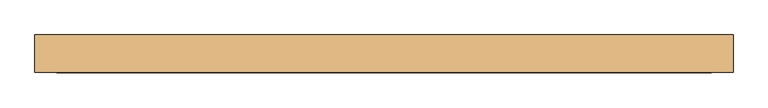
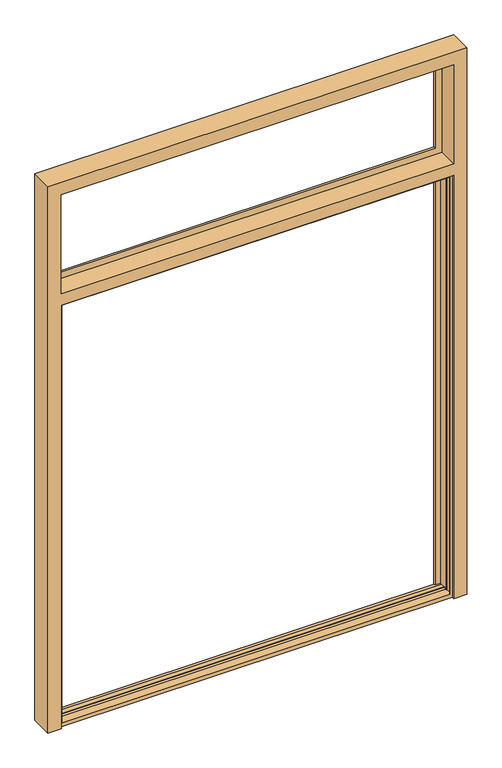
"""IFC4 building model written with IfcOpenShell, lengths in millimetres: door geometry, Dvokrilna vrata s ventusom__ : Dvokrilna vrata s ventusom__."""

from ifc_helpers import new_model, si_unit, frame, origin, place, context, project, spatial, circle_curve, source, transform, mapped, element, save
from ifc_brep_helpers import plane_surface, cylinder_surface, advanced_brep


def door_9ea68863(model_context):
    return source(origin(), model_context, "Body", "AdvancedBrep", [
        advanced_brep(
        [(-740.4975921, -16.6500238, 10.0), (-740.4975921, -25.0, 10.0), (-790.0, -25.0, 10.0), (-790.0, 60.0038013, 10.0), (790.0, 60.0038013, 10.0), (790.0, -25.0, 10.0), (740.4975921, -25.0, 10.0), (740.4975921, -16.6500238, 10.0), (-740.4975921, -16.6500238, 1699.4981835), (-740.4975921, -25.0, 1699.4981835), (-740.4975921, 51.4930924, 2140.4974913), (-740.4975921, -25.0, 2140.4974913), (-740.4975921, -25.0, 1744.4982455), (-740.4975921, 51.4930924, 1744.4982455), (-740.4975921, -15.1500233, 1690.0), (-740.4975921, 51.4930924, 1690.0), (-740.4975921, 51.4930924, 1693.1980771), (-740.4975921, 10.7380191, 1693.1980771), (-740.4975921, 10.7380191, 1695.8521488), (-740.4975921, -15.1500233, 1695.8521488), (740.4974913, -25.0, 1699.4981835), (790.0, -25.0, 2190.0), (-790.0, -25.0, 2190.0), (740.4974913, -25.0, 2140.4974913), (740.4974913, -25.0, 1744.4982455), (-790.0, 60.0038013, 2190.0), (790.0, 60.0038013, 2190.0), (-715.5, 60.0038013, 25.6983046), (715.5, 60.0038013, 25.6983046), (715.5, 60.0038013, 2115.5), (-715.5, 60.0038013, 2115.5), (740.4974913, -16.6500238, 1699.4981835), (740.4974913, 51.4930924, 1693.1980771), (740.4974913, 51.4930924, 1690.0), (740.4974913, -15.1500233, 1690.0), (740.4974913, -15.1500233, 1695.8521488), (740.4974913, 10.7380191, 1695.8521488), (740.4974913, 10.7380191, 1693.1980771), (740.4974913, 51.4930924, 2140.4974913), (740.4974913, 51.4930924, 1744.4982455), (-730.9940382, -16.6500238, 25.5020091), (-730.9940382, -16.6500238, 1690.0), (730.9940382, -16.6500238, 1690.0), (730.9940382, -16.6500238, 25.5020091), (-715.5, 51.4930924, 27.2333939), (-734.1974857, 51.4930924, 27.2333939), (-734.1974857, 45.1495482, 28.3775885), (734.1974857, 45.1495482, 28.3775885), (734.1974857, 51.4930924, 27.2333939), (715.5, 51.4930924, 27.2333939), (715.5, 51.4930924, 1674.5), (715.5, 59.5034493, 1674.5), (715.5, 59.5034493, 1769.5), (715.5, 51.4930924, 1769.5), (715.5, 51.4930924, 2115.5), (-715.5, 51.4930924, 2115.5), (-715.5, 51.4930924, 1769.5), (-715.5, 59.5034493, 1769.5), (-715.5, 59.5034493, 1674.5), (-715.5, 51.4930924, 1674.5), (734.1974857, 51.4930924, 1690.0), (-734.1974857, 51.4930924, 1690.0), (734.1974857, 10.7380189, 1690.0), (734.1974857, 24.659118, 30.02273), (734.1974857, 22.8455133, 29.5983726), (734.1974857, 16.0961648, 25.5020091), (734.1974857, 10.7380189, 25.5020091), (-734.1974857, 10.7380189, 1690.0), (-734.1974857, 10.7380189, 25.5020091), (-734.1974857, 16.0961648, 25.5020091), (-734.1974857, 22.8455133, 29.5983726), (-734.1974857, 24.659118, 30.02273), (-736.8515574, 10.7380189, 1690.0), (-736.8515574, 10.7380189, 25.5020091), (-736.8515574, -15.150024, 25.5020091), (-730.9940382, -15.150024, 25.5020091), (730.9940382, -15.150024, 25.5020091), (736.8515574, -15.150024, 25.5020091), (736.8515574, 10.7380189, 25.5020091), (-736.8515574, -15.150024, 1690.0), (736.8515574, -15.150024, 1690.0), (730.9940382, -15.150024, 1690.0), (-730.9940382, -15.150024, 1690.0), (736.8515574, 10.7380189, 1690.0)],
        [
            (0, 1),
            (1, 2),
            (2, 3),
            (3, 4),
            (4, 5),
            (5, 6),
            (6, 7),
            (7, 0),
            (0, 8),
            (8, 9),
            (9, 1),
            (10, 11),
            (11, 12),
            (12, 13),
            (13, 10),
            (14, 15),
            (15, 16),
            (16, 17),
            (17, 18),
            (18, 19),
            (19, 14),
            (9, 20),
            (20, 6),
            (5, 21),
            (21, 22),
            (22, 2),
            (11, 23),
            (23, 24),
            (24, 12),
            (22, 25),
            (25, 3),
            (25, 26),
            (26, 4),
            (27, 28),
            (28, 29),
            (29, 30),
            (30, 27),
            (26, 21),
            (20, 31),
            (31, 7),
            (32, 33),
            (33, 34),
            (34, 35),
            (35, 36),
            (36, 37),
            (37, 32),
            (23, 38),
            (38, 39),
            (39, 24),
            (31, 8),
            (40, 41),
            (41, 42),
            (42, 43),
            (43, 40),
            (27, 44),
            (44, 45),
            (45, 46),
            (46, 47),
            (47, 48),
            (48, 49),
            (49, 28),
            (49, 50),
            (50, 51),
            (51, 52),
            (52, 53),
            (53, 54),
            (54, 29),
            (30, 55),
            (55, 56),
            (56, 57),
            (57, 58),
            (58, 59),
            (59, 44),
            (59, 50),
            (48, 60),
            (60, 33),
            (32, 16),
            (15, 61),
            (61, 45),
            (38, 10),
            (13, 39),
            (55, 54),
            (53, 56),
            (62, 60),
            (47, 63),
            (63, 64, circle_curve(frame((734.1974857, 24.4020436, 27.0337648), z_axis=(1.0, 0.0, 0.0), x_axis=(0.0, -0.5188434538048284, 0.8548692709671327)), 3.0)),
            (64, 65),
            (65, 66),
            (66, 62),
            (61, 67),
            (67, 68),
            (68, 69),
            (69, 70),
            (70, 71, circle_curve(frame((-734.1974857, 24.4020436, 27.0337648), z_axis=(-1.0, 0.0, 0.0), x_axis=(0.0, -0.5188434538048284, 0.8548692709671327)), 3.0)),
            (71, 46),
            (67, 72),
            (72, 73),
            (73, 68),
            (73, 74),
            (74, 75),
            (75, 40),
            (43, 76),
            (76, 77),
            (77, 78),
            (78, 66),
            (65, 69),
            (64, 70),
            (63, 71),
            (72, 79),
            (79, 74),
            (79, 14),
            (19, 35),
            (34, 80),
            (80, 77),
            (76, 81),
            (81, 82),
            (82, 75),
            (80, 83),
            (83, 78),
            (42, 81),
            (82, 41),
            (83, 62),
            (52, 57),
            (18, 36),
            (17, 37),
            (58, 51),
        ],
        [
            plane_surface(frame((-790.0, 60.0038013, 10.0), z_axis=(0.0, 0.0, -1.0), x_axis=(0.0, -1.0, 0.0))),
            plane_surface(frame((-740.4975921, -16.6500238, 10.0), z_axis=(1.0, 0.0, 0.0), x_axis=(0.0, 0.0, 1.0))),
            plane_surface(frame((-740.4975921, -25.0, 10.0), z_axis=(0.0, -1.0, 0.0), x_axis=(0.0, 0.0, 1.0))),
            plane_surface(frame((-790.0, -25.0, 10.0), z_axis=(-1.0, 0.0, 0.0), x_axis=(0.0, 0.0, 1.0))),
            plane_surface(frame((-790.0, 60.0038013, 10.0), z_axis=(0.0, 1.0, 0.0), x_axis=(0.0, 0.0, 1.0))),
            plane_surface(frame((790.0, 60.0038013, 10.0), z_axis=(1.0, 0.0, 0.0), x_axis=(0.0, -1.0, 0.0))),
            plane_surface(frame((740.4974913, 51.4930924, 2140.4974913), z_axis=(-1.0, 0.0, 0.0), x_axis=(0.0, 0.0, -1.0))),
            plane_surface(frame((-730.9940382, -16.6500238, 10.0), z_axis=(0.0, -1.0, 0.0), x_axis=(0.0, 0.0, 1.0))),
            plane_surface(frame((-790.0, 45.1495482, 28.3775885), z_axis=(0.0, 0.17750711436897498, 0.9841195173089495), x_axis=(1.0, 0.0, 0.0))),
            plane_surface(frame((715.5, 60.0038013, 2115.5), z_axis=(-1.0, 0.0, 0.0), x_axis=(0.0, 0.0, -1.0))),
            plane_surface(frame((-715.5, 60.0038013, 10.0), z_axis=(1.0, 0.0, 0.0), x_axis=(0.0, 0.0, 1.0))),
            plane_surface(frame((-715.5, 51.4930924, 10.0), z_axis=(0.0, -1.0, 0.0), x_axis=(0.0, 0.0, 1.0))),
            plane_surface(frame((734.1974857, 51.4930924, 1690.0), z_axis=(-1.0, 0.0, 0.0), x_axis=(0.0, 0.0, -1.0))),
            plane_surface(frame((-734.1974857, 51.4930924, 10.0), z_axis=(1.0, 0.0, 0.0), x_axis=(0.0, 0.0, 1.0))),
            plane_surface(frame((-734.1974857, 10.7380189, 10.0), z_axis=(0.0, -1.0, 0.0), x_axis=(0.0, 0.0, 1.0))),
            plane_surface(frame((-790.0, -16.6514745, 25.5020091), z_axis=(0.0, 0.0, 1.0), x_axis=(1.0, 0.0, 0.0))),
            plane_surface(frame((-790.0, 16.0961648, 25.5020091), z_axis=(0.0, -0.5188434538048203, 0.8548692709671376), x_axis=(1.0, 0.0, 0.0))),
            cylinder_surface(frame((-790.0, 24.4020436, 27.0337648), z_axis=(-1.0, 0.0, 0.0), x_axis=(0.0, -0.5188434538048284, 0.8548692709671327)), 3.0),
            plane_surface(frame((-790.0, 24.659118, 30.02273), z_axis=(0.0, 0.08003075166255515, 0.9967923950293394), x_axis=(1.0, 0.0, 0.0))),
            plane_surface(frame((-736.8515574, 10.7380189, 10.0), z_axis=(1.0, 0.0, 0.0), x_axis=(0.0, 0.0, 1.0))),
            plane_surface(frame((-736.8515574, -15.150024, 10.0), z_axis=(0.0, 1.0, 0.0), x_axis=(0.0, 0.0, 1.0))),
            plane_surface(frame((736.8515574, 10.7380189, 1690.0), z_axis=(-1.0, 0.0, 0.0), x_axis=(0.0, 0.0, -1.0))),
            plane_surface(frame((730.9940382, -15.150024, 1690.0), z_axis=(-1.0, 0.0, 0.0), x_axis=(0.0, 0.0, -1.0))),
            plane_surface(frame((-730.9940382, -15.150024, 10.0), z_axis=(1.0, 0.0, 0.0), x_axis=(0.0, 0.0, 1.0))),
            plane_surface(frame((734.1974857, 10.7380189, 1690.0), z_axis=(0.0, -1.0, 0.0), x_axis=(0.0, 0.0, -1.0))),
            plane_surface(frame((-790.0, 60.0038013, 1690.0), z_axis=(0.0, 0.0, 1.0), x_axis=(0.0, -1.0, 0.0))),
            plane_surface(frame((790.0, 60.0038013, 1690.0), z_axis=(0.0, 0.0, -1.0), x_axis=(0.0, -1.0, 0.0))),
            plane_surface(frame((-715.5, 60.0038013, 2115.5), z_axis=(0.0, 0.0, -1.0), x_axis=(1.0, 0.0, 0.0))),
            plane_surface(frame((-740.4974913, 51.4930924, 2140.4974913), z_axis=(0.0, 0.0, -1.0), x_axis=(1.0, 0.0, 0.0))),
            plane_surface(frame((-790.0, -25.0, 2190.0), z_axis=(0.0, 0.0, 1.0), x_axis=(1.0, 0.0, 0.0))),
            plane_surface(frame((-790.0, 51.5034493, 1769.5), z_axis=(0.0, 0.0, 1.0), x_axis=(1.0, 0.0, 0.0))),
            plane_surface(frame((-790.0, -25.0, 1744.4982455), z_axis=(0.0, 0.0, 1.0), x_axis=(1.0, 0.0, 0.0))),
            plane_surface(frame((-790.0, -16.6500238, 1699.4981835), z_axis=(0.0, 0.0, -1.0), x_axis=(1.0, 0.0, 0.0))),
            plane_surface(frame((-790.0, 10.7380191, 1695.8521488), z_axis=(0.0, 0.0, -1.0), x_axis=(1.0, 0.0, 0.0))),
            plane_surface(frame((-790.0, 10.7380191, 1693.1980771), z_axis=(0.0, -1.0, 0.0), x_axis=(1.0, 0.0, 0.0))),
            plane_surface(frame((-790.0, 51.4930924, 1693.1980771), z_axis=(0.0, 0.0, -1.0), x_axis=(1.0, 0.0, 0.0))),
            plane_surface(frame((-790.0, 59.5034493, 1674.5), z_axis=(0.0, 0.0, -1.0), x_axis=(1.0, 0.0, 0.0))),
            plane_surface(frame((-790.0, 59.5034493, 1769.5), z_axis=(0.0, 1.0, 0.0), x_axis=(1.0, 0.0, 0.0))),
            plane_surface(frame((790.0, 60.0038013, 1690.0), z_axis=(0.0, 0.0, 1.0), x_axis=(0.0, -1.0, 0.0))),
        ],
        [
            (0, [[1, 2, 3, 4, 5, 6, 7, 8]]),
            (1, [[-1, 9, 10, 11]]),
            (1, [[12, 13, 14, 15]]),
            (1, [[16, 17, 18, 19, 20, 21]]),
            (2, [[-2, -11, 22, 23, -6, 24, 25, 26], [27, 28, 29, -13]]),
            (3, [[-3, -26, 30, 31]]),
            (4, [[-4, -31, 32, 33], [34, 35, 36, 37]]),
            (5, [[-24, -5, -33, 38]]),
            (6, [[-23, 39, 40, -7]]),
            (6, [[41, 42, 43, 44, 45, 46]]),
            (6, [[47, 48, 49, -28]]),
            (7, [[-8, -40, 50, -9], [51, 52, 53, 54]]),
            (8, [[55, 56, 57, 58, 59, 60, 61, -34]]),
            (9, [[-35, -61, 62, 63, 64, 65, 66, 67]]),
            (10, [[-55, -37, 68, 69, 70, 71, 72, 73]]),
            (11, [[-56, -73, 74, -62, -60, 75, 76, -41, 77, -17, 78, 79]]),
            (11, [[80, -15, 81, -48], [82, -66, 83, -69]]),
            (12, [[84, -75, -59, 85, 86, 87, 88, 89]]),
            (13, [[90, 91, 92, 93, 94, 95, -57, -79]]),
            (14, [[96, 97, 98, -91]]),
            (15, [[-92, -98, 99, 100, 101, -54, 102, 103, 104, 105, -88, 106]]),
            (16, [[-93, -106, -87, 107]]),
            (17, [[-94, -107, -86, 108]]),
            (18, [[-95, -108, -85, -58]]),
            (19, [[109, 110, -99, -97]]),
            (20, [[-110, 111, -21, 112, -43, 113, 114, -103, 115, 116, 117, -100]]),
            (21, [[118, 119, -104, -114]]),
            (22, [[-53, 120, -115, -102]]),
            (23, [[-117, 121, -51, -101]]),
            (24, [[122, -89, -105, -119]]),
            (25, [[-109, -96, -90, -78, -16, -111]]),
            (26, [[-121, -116, -120, -52]]),
            (27, [[-68, -36, -67, -82]]),
            (28, [[-80, -47, -27, -12]]),
            (29, [[-25, -38, -32, -30]]),
            (30, [[-83, -65, 123, -70]]),
            (31, [[-29, -49, -81, -14]]),
            (32, [[-22, -10, -50, -39]]),
            (33, [[-112, -20, 124, -44]]),
            (34, [[-124, -19, 125, -45]]),
            (35, [[-125, -18, -77, -46]]),
            (36, [[-72, 126, -63, -74]]),
            (37, [[-123, -64, -126, -71]]),
            (38, [[-84, -122, -118, -113, -42, -76]]),
        ],
    ),
    ])


if __name__ == "__main__":
    model = new_model("IFC4")
    model_context = context("Model", 3, world=origin())
    ifc_project = project(units=[si_unit("LENGTHUNIT", "METRE", prefix="MILLI")], contexts=[model_context])
    site = spatial("IfcSite", under=ifc_project)
    building = spatial("IfcBuilding", under=site)
    placement = place(None, origin())
    door_shape = door_9ea68863(model_context)
    element("IfcDoor", 1, ObjectType="Dvokrilna vrata s ventusom__ : Dvokrilna vrata s ventusom__", at=placement, inside=building, context=model_context, shape_type="MappedRepresentation", body=[
        mapped(door_shape, transform((0.0, 0.0, 0.0), x_axis=(1.0, 0.0, 0.0), y_axis=(0.0, 1.0, 0.0), z_axis=(0.0, 0.0, 1.0))),
    ])
    save(model, "model.ifc")
